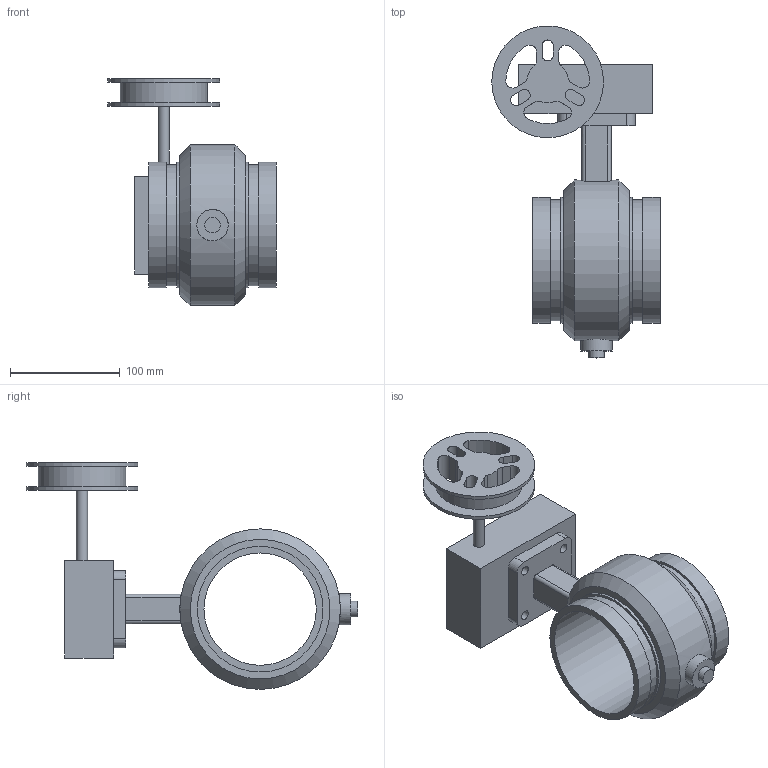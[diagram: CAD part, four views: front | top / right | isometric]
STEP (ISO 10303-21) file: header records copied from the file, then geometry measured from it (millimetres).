
FILE_DESCRIPTION(/* description */ ('VIC SS BUTTERFLY VALVE GO CW SERIES 250-S (OGS)'),/* implementation_level */ '2;1');
FILE_NAME(/* name */ 'C:\Files for Export\250-S\Victaulic_SS_Vlv Btfl GO CW_Series 250-S (OGS)\Victaulic_SS_Vlv Btfl GO CW_Series 250-S (OGS)_4 (100).stp',/* time_stamp */ '2024-10-14T13:12:38+02:00',/* author */ ('cps_temp'),/* organization */ ('Victaulic'),/* preprocessor_version */ 'ST-DEVELOPER v18.1',/* originating_system */ 'Autodesk Inventor 2020',/* authorisation */ '');
FILE_SCHEMA (('AUTOMOTIVE_DESIGN { 1 0 10303 214 3 1 1 }'));
Length unit declared in the file: inch
Products named in the file (1): 250-S4-04.0
Bounding box: 153.16 x 301.75 x 206.38 mm (x, y, z)
Volume: 1223355.8 mm3; surface area: 191450.3 mm2
Topology: 1 solids, 2 shells, 101 faces, 258 edges, 179 vertices
Faces by surface type: cylinder 52, plane 47, cone 2
Full cylindrical faces by diameter (mm): 8.636 x4, 10.16 x1, 14.224 x2, 28.575 x1, 55.118 x1, 79.375 x1, 101.6 x2, 102.26 x1, 110.084 x2, 114.3 x4, 146.05 x1
Entity records: 3395 total; most frequent: CARTESIAN_POINT 610, DIRECTION 581, ORIENTED_EDGE 516, EDGE_CURVE 258, AXIS2_PLACEMENT_3D 228, VERTEX_POINT 179, EDGE_LOOP 135, CIRCLE 126
